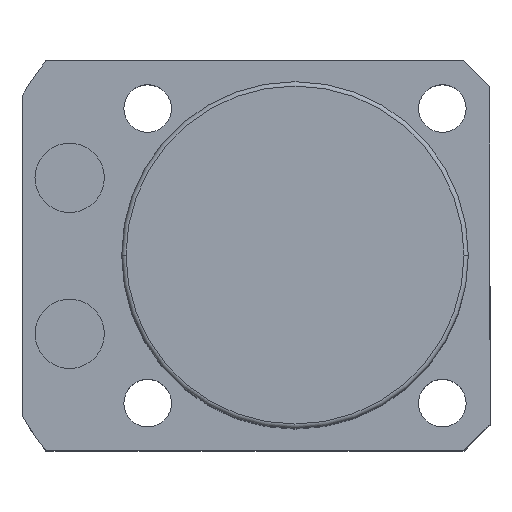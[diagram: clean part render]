
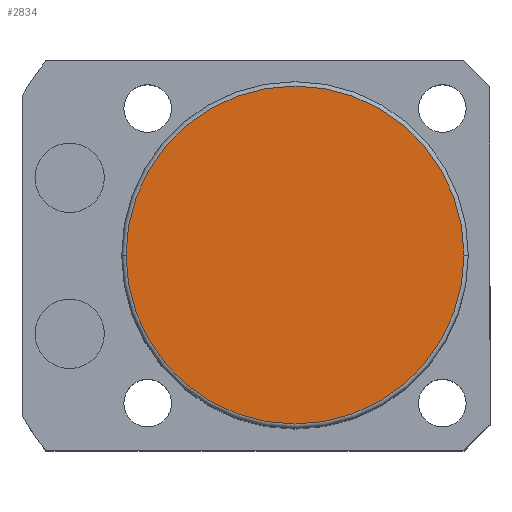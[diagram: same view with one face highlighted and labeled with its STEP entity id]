
A CAD part, top view. The second image highlights one B-rep face of the part: STEP entity #2834.
In plain terms, the highlighted planar face has unit normal (0, 0, 1).
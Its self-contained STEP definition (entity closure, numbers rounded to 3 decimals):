
#21 = CARTESIAN_POINT ( 'NONE',  ( -19.5, 0., 63.5 ) ) ;
#85 = EDGE_LOOP ( 'NONE', ( #299, #1370 ) ) ;
#299 = ORIENTED_EDGE ( 'NONE', *, *, #5234, .T. ) ;
#546 = VERTEX_POINT ( 'NONE', #1542 ) ;
#603 = DIRECTION ( 'NONE',  ( 1., 0., 0. ) ) ;
#718 = AXIS2_PLACEMENT_3D ( 'NONE', #4907, #2069, #2478 ) ;
#1370 = ORIENTED_EDGE ( 'NONE', *, *, #4861, .T. ) ;
#1403 = CARTESIAN_POINT ( 'NONE',  ( 0., 0., 63.5 ) ) ;
#1542 = CARTESIAN_POINT ( 'NONE',  ( 19.5, 0., 63.5 ) ) ;
#1980 = VERTEX_POINT ( 'NONE', #21 ) ;
#2069 = DIRECTION ( 'NONE',  ( 0., 0., 1. ) ) ;
#2478 = DIRECTION ( 'NONE',  ( 1., 0., 0. ) ) ;
#2569 = AXIS2_PLACEMENT_3D ( 'NONE', #1403, #3036, #603 ) ;
#2834 = ADVANCED_FACE ( 'NONE', ( #4054 ), #3163, .T. ) ;
#3036 = DIRECTION ( 'NONE',  ( 0., 0., 1. ) ) ;
#3163 = PLANE ( 'NONE',  #4762 ) ;
#4054 = FACE_OUTER_BOUND ( 'NONE', #85, .T. ) ;
#4100 = CIRCLE ( 'NONE', #2569, 19.5 ) ;
#4352 = CIRCLE ( 'NONE', #718, 19.5 ) ;
#4412 = DIRECTION ( 'NONE',  ( 0., 0., 1. ) ) ;
#4762 = AXIS2_PLACEMENT_3D ( 'NONE', #4845, #4412, #5218 ) ;
#4845 = CARTESIAN_POINT ( 'NONE',  ( 0., 0., 63.5 ) ) ;
#4861 = EDGE_CURVE ( 'NONE', #1980, #546, #4100, .T. ) ;
#4907 = CARTESIAN_POINT ( 'NONE',  ( 0., 0., 63.5 ) ) ;
#5218 = DIRECTION ( 'NONE',  ( 1., 0., 0. ) ) ;
#5234 = EDGE_CURVE ( 'NONE', #546, #1980, #4352, .T. ) ;
